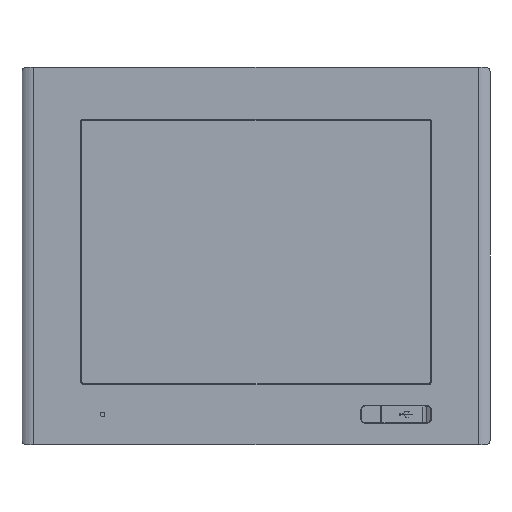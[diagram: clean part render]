
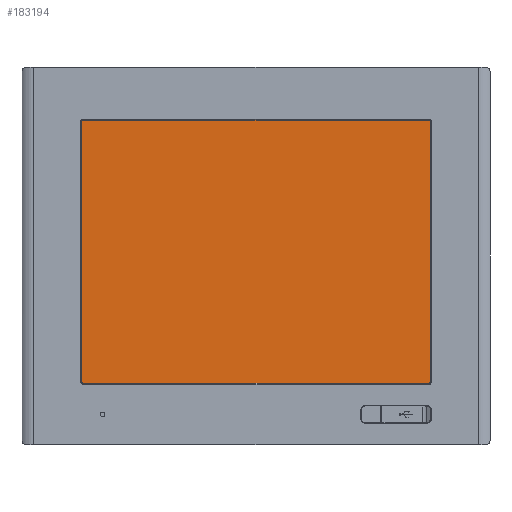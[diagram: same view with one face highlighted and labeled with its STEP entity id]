
A CAD part, front view. The second image highlights one B-rep face of the part: STEP entity #183194.
In plain terms, the highlighted planar face has unit normal (0, -1, 0).
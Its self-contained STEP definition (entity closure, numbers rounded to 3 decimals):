
#183085=DIRECTION('',(1.,0.,0.));
#183086=VECTOR('',#183085,252.67);
#183087=CARTESIAN_POINT('',(-126.34,-2.1,94.1));
#183088=LINE('',#183087,#183086);
#183089=DIRECTION('',(0.,0.,-1.));
#183090=VECTOR('',#183089,191.2);
#183091=CARTESIAN_POINT('',(126.33,-2.1,94.1));
#183092=LINE('',#183091,#183090);
#183093=DIRECTION('',(-1.,0.,0.));
#183094=VECTOR('',#183093,252.67);
#183095=CARTESIAN_POINT('',(126.33,-2.1,-97.1));
#183096=LINE('',#183095,#183094);
#183097=DIRECTION('',(0.,0.,1.));
#183098=VECTOR('',#183097,191.2);
#183099=CARTESIAN_POINT('',(-126.34,-2.1,-97.1));
#183100=LINE('',#183099,#183098);
#183125=CARTESIAN_POINT('',(-126.34,-2.1,94.1));
#183126=CARTESIAN_POINT('',(126.33,-2.1,94.1));
#183127=VERTEX_POINT('',#183125);
#183128=VERTEX_POINT('',#183126);
#183129=CARTESIAN_POINT('',(126.33,-2.1,-97.1));
#183130=VERTEX_POINT('',#183129);
#183131=CARTESIAN_POINT('',(-126.34,-2.1,-97.1));
#183132=VERTEX_POINT('',#183131);
#183179=CARTESIAN_POINT('',(-3.815,-2.1,-1.5));
#183180=DIRECTION('',(0.,-1.,0.));
#183181=DIRECTION('',(1.,0.,0.));
#183182=AXIS2_PLACEMENT_3D('',#183179,#183180,#183181);
#183183=PLANE('',#183182);
#183185=ORIENTED_EDGE('',*,*,#183184,.T.);
#183187=ORIENTED_EDGE('',*,*,#183186,.T.);
#183189=ORIENTED_EDGE('',*,*,#183188,.T.);
#183191=ORIENTED_EDGE('',*,*,#183190,.T.);
#183192=EDGE_LOOP('',(#183185,#183187,#183189,#183191));
#183193=FACE_OUTER_BOUND('',#183192,.F.);
#183184=EDGE_CURVE('',#183127,#183128,#183088,.T.);
#183186=EDGE_CURVE('',#183128,#183130,#183092,.T.);
#183188=EDGE_CURVE('',#183130,#183132,#183096,.T.);
#183190=EDGE_CURVE('',#183132,#183127,#183100,.T.);
#183194=ADVANCED_FACE('',(#183193),#183183,.T.);
